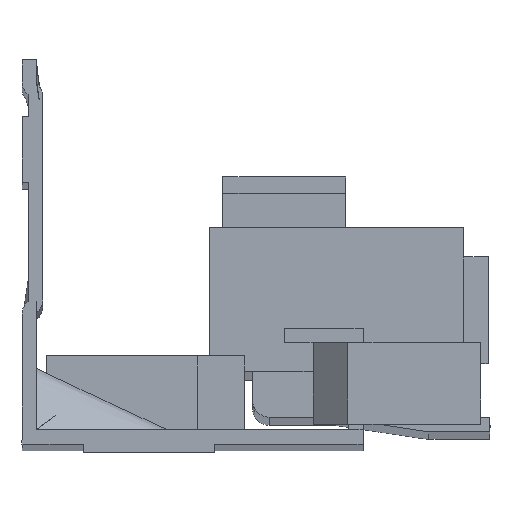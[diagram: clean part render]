
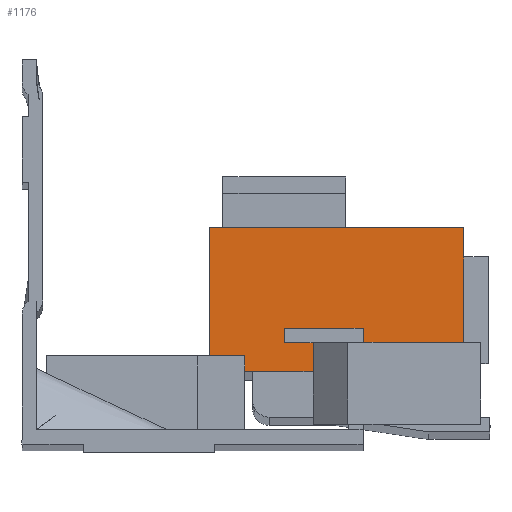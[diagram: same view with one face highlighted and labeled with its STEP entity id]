
A CAD part, front view. The second image highlights one B-rep face of the part: STEP entity #1176.
In plain terms, the highlighted planar face has unit normal (0, -1, 0).
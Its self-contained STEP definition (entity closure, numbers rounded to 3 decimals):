
#7 = ORIENTED_EDGE ( 'NONE', *, *, #1615, .F. ) ;
#12 = ORIENTED_EDGE ( 'NONE', *, *, #150, .F. ) ;
#13 = ORIENTED_EDGE ( 'NONE', *, *, #1547, .F. ) ;
#14 = ORIENTED_EDGE ( 'NONE', *, *, #107, .T. ) ;
#15 = ORIENTED_EDGE ( 'NONE', *, *, #132, .T. ) ;
#25 = ORIENTED_EDGE ( 'NONE', *, *, #1617, .T. ) ;
#30 = ORIENTED_EDGE ( 'NONE', *, *, #1614, .F. ) ;
#55 = ORIENTED_EDGE ( 'NONE', *, *, #1616, .T. ) ;
#95 = ORIENTED_EDGE ( 'NONE', *, *, #1613, .F. ) ;
#98 = EDGE_CURVE ( 'NONE', #5274, #5148, #3318, .T. ) ;
#99 = EDGE_CURVE ( 'NONE', #5274, #5273, #3320, .T. ) ;
#100 = EDGE_CURVE ( 'NONE', #5273, #5272, #3322, .T. ) ;
#107 = EDGE_CURVE ( 'NONE', #5120, #5251, #3336, .T. ) ;
#132 = EDGE_CURVE ( 'NONE', #5251, #5208, #3386, .T. ) ;
#150 = EDGE_CURVE ( 'NONE', #5168, #5208, #3422, .T. ) ;
#206 = AXIS2_PLACEMENT_3D ( 'NONE', #5486, #5487, #5488 ) ;
#631 = CARTESIAN_POINT ( 'NONE',  ( 53.9, -20., -9.558 ) ) ;
#632 = DIRECTION ( 'NONE',  ( 1., 0., 0. ) ) ;
#792 = CARTESIAN_POINT ( 'NONE',  ( 27.15, -20., -27.058 ) ) ;
#793 = DIRECTION ( 'NONE',  ( 0., 0., 1. ) ) ;
#794 = CARTESIAN_POINT ( 'NONE',  ( 49.9, -20., -25.181 ) ) ;
#795 = DIRECTION ( 'NONE',  ( -1., 0., 0. ) ) ;
#796 = CARTESIAN_POINT ( 'NONE',  ( 22.9, -20., -27.058 ) ) ;
#797 = DIRECTION ( 'NONE',  ( 0., 0., 1. ) ) ;
#798 = CARTESIAN_POINT ( 'NONE',  ( 41.6, -20., -21.858 ) ) ;
#799 = DIRECTION ( 'NONE',  ( 1., 0., 0. ) ) ;
#800 = CARTESIAN_POINT ( 'NONE',  ( 32., -20., -21.831 ) ) ;
#801 = DIRECTION ( 'NONE',  ( 0., 0., 1. ) ) ;
#985 = CARTESIAN_POINT ( 'NONE',  ( 22.9, -20., -25.181 ) ) ;
#995 = CARTESIAN_POINT ( 'NONE',  ( 41.6, -20., -21.858 ) ) ;
#1023 = CARTESIAN_POINT ( 'NONE',  ( 32., -20., -23.608 ) ) ;
#1025 = CARTESIAN_POINT ( 'NONE',  ( 32., -20., -21.858 ) ) ;
#1043 = CARTESIAN_POINT ( 'NONE',  ( 53.9, -20., -9.558 ) ) ;
#1083 = CARTESIAN_POINT ( 'NONE',  ( 53.9, -20., -23.558 ) ) ;
#1118 = CARTESIAN_POINT ( 'NONE',  ( 22.9, -20., -9.558 ) ) ;
#1126 = CARTESIAN_POINT ( 'NONE',  ( 41.6, -20., -23.558 ) ) ;
#1147 = CARTESIAN_POINT ( 'NONE',  ( 27.15, -20., -27.058 ) ) ;
#1148 = CARTESIAN_POINT ( 'NONE',  ( 35.5, -20., -27.058 ) ) ;
#1149 = CARTESIAN_POINT ( 'NONE',  ( 35.5, -20., -23.608 ) ) ;
#1155 = CARTESIAN_POINT ( 'NONE',  ( 27.15, -20., -25.181 ) ) ;
#1176 = ADVANCED_FACE ( 'NONE', ( #3488 ), #5485, .F. ) ;
#1547 = EDGE_CURVE ( 'NONE', #5243, #5168, #4130, .T. ) ;
#1613 = EDGE_CURVE ( 'NONE', #5272, #5280, #4233, .T. ) ;
#1614 = EDGE_CURVE ( 'NONE', #5280, #5110, #4235, .T. ) ;
#1615 = EDGE_CURVE ( 'NONE', #5110, #5243, #4237, .T. ) ;
#1616 = EDGE_CURVE ( 'NONE', #5150, #5120, #4239, .T. ) ;
#1617 = EDGE_CURVE ( 'NONE', #5148, #5150, #4241, .T. ) ;
#3107 = ORIENTED_EDGE ( 'NONE', *, *, #98, .T. ) ;
#3108 = ORIENTED_EDGE ( 'NONE', *, *, #99, .F. ) ;
#3109 = ORIENTED_EDGE ( 'NONE', *, *, #100, .F. ) ;
#3204 = EDGE_LOOP ( 'NONE', ( #3109, #3108, #3107, #25, #55, #14, #15, #12, #13, #7, #30, #95 ) ) ;
#3318 = LINE ( 'NONE', #5281, #3319 ) ;
#3319 = VECTOR ( 'NONE', #5282, 1000. ) ;
#3320 = LINE ( 'NONE', #5283, #3321 ) ;
#3321 = VECTOR ( 'NONE', #5284, 1000. ) ;
#3322 = LINE ( 'NONE', #5285, #3323 ) ;
#3323 = VECTOR ( 'NONE', #5286, 1000. ) ;
#3336 = LINE ( 'NONE', #5299, #3337 ) ;
#3337 = VECTOR ( 'NONE', #5300, 1000. ) ;
#3386 = LINE ( 'NONE', #5349, #3387 ) ;
#3387 = VECTOR ( 'NONE', #5350, 1000. ) ;
#3422 = LINE ( 'NONE', #5385, #3423 ) ;
#3423 = VECTOR ( 'NONE', #5386, 1000. ) ;
#3488 = FACE_OUTER_BOUND ( 'NONE', #3204, .T. ) ;
#4130 = LINE ( 'NONE', #631, #4131 ) ;
#4131 = VECTOR ( 'NONE', #632, 1000. ) ;
#4233 = LINE ( 'NONE', #792, #4234 ) ;
#4234 = VECTOR ( 'NONE', #793, 1000. ) ;
#4235 = LINE ( 'NONE', #794, #4236 ) ;
#4236 = VECTOR ( 'NONE', #795, 1000. ) ;
#4237 = LINE ( 'NONE', #796, #4238 ) ;
#4238 = VECTOR ( 'NONE', #797, 1000. ) ;
#4239 = LINE ( 'NONE', #798, #4240 ) ;
#4240 = VECTOR ( 'NONE', #799, 1000. ) ;
#4241 = LINE ( 'NONE', #800, #4242 ) ;
#4242 = VECTOR ( 'NONE', #801, 1000. ) ;
#5110 = VERTEX_POINT ( 'NONE', #985 ) ;
#5120 = VERTEX_POINT ( 'NONE', #995 ) ;
#5148 = VERTEX_POINT ( 'NONE', #1023 ) ;
#5150 = VERTEX_POINT ( 'NONE', #1025 ) ;
#5168 = VERTEX_POINT ( 'NONE', #1043 ) ;
#5208 = VERTEX_POINT ( 'NONE', #1083 ) ;
#5243 = VERTEX_POINT ( 'NONE', #1118 ) ;
#5251 = VERTEX_POINT ( 'NONE', #1126 ) ;
#5272 = VERTEX_POINT ( 'NONE', #1147 ) ;
#5273 = VERTEX_POINT ( 'NONE', #1148 ) ;
#5274 = VERTEX_POINT ( 'NONE', #1149 ) ;
#5280 = VERTEX_POINT ( 'NONE', #1155 ) ;
#5281 = CARTESIAN_POINT ( 'NONE',  ( 32., -20., -23.608 ) ) ;
#5282 = DIRECTION ( 'NONE',  ( -1., 0., 0. ) ) ;
#5283 = CARTESIAN_POINT ( 'NONE',  ( 35.5, -20., -27.058 ) ) ;
#5284 = DIRECTION ( 'NONE',  ( 0., 0., -1. ) ) ;
#5285 = CARTESIAN_POINT ( 'NONE',  ( 49.9, -20., -27.058 ) ) ;
#5286 = DIRECTION ( 'NONE',  ( -1., 0., 0. ) ) ;
#5299 = CARTESIAN_POINT ( 'NONE',  ( 41.6, -20., -35.931 ) ) ;
#5300 = DIRECTION ( 'NONE',  ( 0., 0., -1. ) ) ;
#5349 = CARTESIAN_POINT ( 'NONE',  ( 49.9, -20., -23.558 ) ) ;
#5350 = DIRECTION ( 'NONE',  ( 1., 0., 0. ) ) ;
#5385 = CARTESIAN_POINT ( 'NONE',  ( 53.9, -20., -29.558 ) ) ;
#5386 = DIRECTION ( 'NONE',  ( 0., 0., -1. ) ) ;
#5485 = PLANE ( 'NONE',  #206 ) ;
#5486 = CARTESIAN_POINT ( 'NONE',  ( 49.9, -20., -27.058 ) ) ;
#5487 = DIRECTION ( 'NONE',  ( 0., 1., 0. ) ) ;
#5488 = DIRECTION ( 'NONE',  ( 1., 0., 0. ) ) ;
